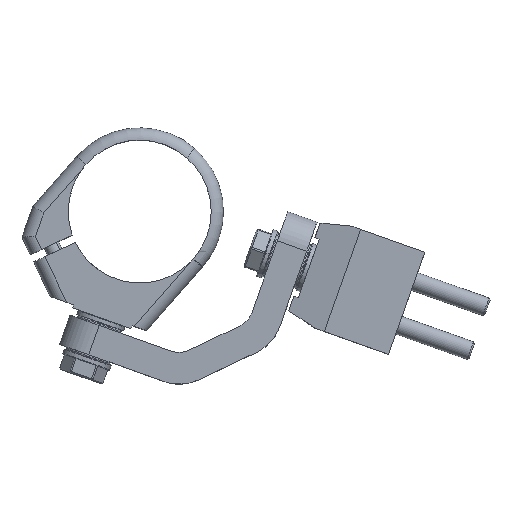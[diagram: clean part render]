
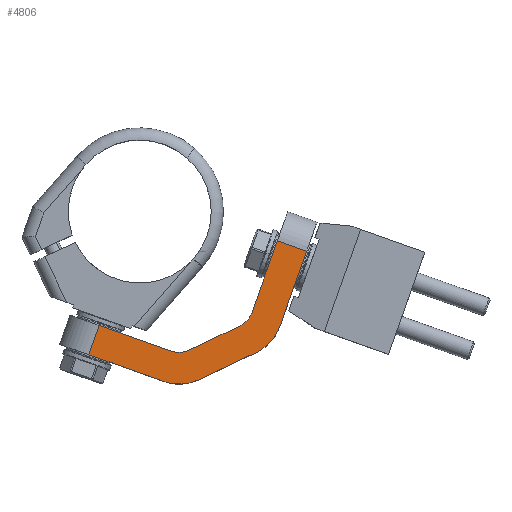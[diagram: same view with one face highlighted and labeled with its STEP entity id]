
A CAD part, top view. The second image highlights one B-rep face of the part: STEP entity #4806.
In plain terms, the highlighted planar face has unit normal (0, 0, 1).
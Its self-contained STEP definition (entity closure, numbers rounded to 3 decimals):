
#430=DIRECTION('',(-0.942,0.335,0.));
#431=VECTOR('',#430,10.);
#432=CARTESIAN_POINT('',(-325.493,2.358,458.379));
#433=LINE('',#432,#431);
#470=CARTESIAN_POINT('',(-366.552,-25.484,458.372));
#471=DIRECTION('',(0.,0.,-1.));
#472=DIRECTION('',(0.051,-0.999,0.));
#473=AXIS2_PLACEMENT_3D('',#470,#471,#472);
#475=DIRECTION('',(-0.942,0.335,0.));
#476=VECTOR('',#475,25.657);
#477=CARTESIAN_POINT('',(-371.582,-39.616,458.372));
#478=LINE('',#477,#476);
#479=DIRECTION('',(0.942,-0.335,0.));
#480=VECTOR('',#479,24.414);
#481=CARTESIAN_POINT('',(-392.399,-21.59,458.367));
#482=LINE('',#481,#480);
#483=CARTESIAN_POINT('',(-366.716,-22.241,458.372));
#484=DIRECTION('',(0.,0.,1.));
#485=DIRECTION('',(-0.335,-0.942,0.));
#486=AXIS2_PLACEMENT_3D('',#483,#484,#485);
#488=CARTESIAN_POINT('',(-366.716,-22.241,458.372));
#489=DIRECTION('',(0.,0.,1.));
#490=DIRECTION('',(0.051,-0.999,0.));
#491=AXIS2_PLACEMENT_3D('',#488,#489,#490);
#493=DIRECTION('',(0.903,0.429,0.));
#494=VECTOR('',#493,17.799);
#495=CARTESIAN_POINT('',(-363.284,-29.468,458.373));
#496=LINE('',#495,#494);
#497=CARTESIAN_POINT('',(-350.638,-14.606,458.375));
#498=DIRECTION('',(0.,0.,1.));
#499=DIRECTION('',(0.429,-0.903,0.));
#500=AXIS2_PLACEMENT_3D('',#497,#498,#499);
#502=CARTESIAN_POINT('',(-350.638,-14.606,458.375));
#503=DIRECTION('',(0.,0.,1.));
#504=DIRECTION('',(0.742,-0.67,0.));
#505=AXIS2_PLACEMENT_3D('',#502,#503,#504);
#507=DIRECTION('',(0.335,0.942,0.));
#508=VECTOR('',#507,24.414);
#509=CARTESIAN_POINT('',(-343.102,-17.289,458.377));
#510=LINE('',#509,#508);
#511=DIRECTION('',(-0.335,-0.942,0.));
#512=VECTOR('',#511,25.657);
#513=CARTESIAN_POINT('',(-325.493,2.358,458.379));
#514=LINE('',#513,#512);
#515=CARTESIAN_POINT('',(-348.229,-16.782,458.376));
#516=DIRECTION('',(0.,0.,-1.));
#517=DIRECTION('',(0.942,-0.335,0.));
#518=AXIS2_PLACEMENT_3D('',#515,#516,#517);
#520=CARTESIAN_POINT('',(-348.229,-16.782,458.376));
#521=DIRECTION('',(0.,0.,-1.));
#522=DIRECTION('',(0.742,-0.67,0.));
#523=AXIS2_PLACEMENT_3D('',#520,#521,#522);
#525=DIRECTION('',(-0.903,-0.429,0.));
#526=VECTOR('',#525,20.284);
#527=CARTESIAN_POINT('',(-341.794,-30.332,458.378));
#528=LINE('',#527,#526);
#529=CARTESIAN_POINT('',(-366.552,-25.484,458.372));
#530=DIRECTION('',(0.,0.,-1.));
#531=DIRECTION('',(0.429,-0.903,0.));
#532=AXIS2_PLACEMENT_3D('',#529,#530,#531);
#630=DIRECTION('',(-0.335,-0.942,0.));
#631=VECTOR('',#630,10.);
#632=CARTESIAN_POINT('',(-392.399,-21.59,458.367));
#633=LINE('',#632,#631);
#3386=CARTESIAN_POINT('',(-334.913,5.712,458.377));
#3388=VERTEX_POINT('',#3386);
#3389=CARTESIAN_POINT('',(-343.102,-17.289,
458.377));
#3390=VERTEX_POINT('',#3389);
#3395=CARTESIAN_POINT('',(-325.493,2.358,458.379));
#3397=VERTEX_POINT('',#3395);
#3401=CARTESIAN_POINT('',(-334.098,-21.813,
458.379));
#3403=VERTEX_POINT('',#3401);
#3409=CARTESIAN_POINT('',(-337.098,-26.838,
458.379));
#3410=VERTEX_POINT('',#3409);
#3415=CARTESIAN_POINT('',(-341.794,-30.332,
458.378));
#3416=VERTEX_POINT('',#3415);
#3417=CARTESIAN_POINT('',(-365.792,-40.465,
458.374));
#3418=CARTESIAN_POINT('',(-371.582,-39.616,
458.372));
#3419=VERTEX_POINT('',#3417);
#3420=VERTEX_POINT('',#3418);
#3421=CARTESIAN_POINT('',(-395.753,-31.011,
458.367));
#3422=VERTEX_POINT('',#3421);
#3423=CARTESIAN_POINT('',(-392.399,-21.59,
458.367));
#3424=VERTEX_POINT('',#3423);
#3425=CARTESIAN_POINT('',(-369.399,-29.778,
458.372));
#3426=VERTEX_POINT('',#3425);
#3427=CARTESIAN_POINT('',(-366.311,-30.231,
458.373));
#3428=VERTEX_POINT('',#3427);
#3429=CARTESIAN_POINT('',(-363.284,-29.468,
458.373));
#3430=VERTEX_POINT('',#3429);
#3431=CARTESIAN_POINT('',(-347.206,-21.832,
458.376));
#3432=VERTEX_POINT('',#3431);
#3433=CARTESIAN_POINT('',(-344.702,-19.969,
458.376));
#3434=VERTEX_POINT('',#3433);
#3435=CARTESIAN_POINT('',(-360.117,-39.034,
458.375));
#3436=VERTEX_POINT('',#3435);
#4772=CARTESIAN_POINT('',(-358.049,-19.747,
458.374));
#4773=DIRECTION('',(0.,0.,1.));
#4774=DIRECTION('',(-0.942,0.335,0.));
#4775=AXIS2_PLACEMENT_3D('',#4772,#4773,#4774);
#4776=PLANE('',#4775);
#4778=ORIENTED_EDGE('',*,*,#4777,.T.);
#4780=ORIENTED_EDGE('',*,*,#4779,.T.);
#4782=ORIENTED_EDGE('',*,*,#4781,.F.);
#4784=ORIENTED_EDGE('',*,*,#4783,.T.);
#4786=ORIENTED_EDGE('',*,*,#4785,.T.);
#4788=ORIENTED_EDGE('',*,*,#4787,.T.);
#4790=ORIENTED_EDGE('',*,*,#4789,.T.);
#4792=ORIENTED_EDGE('',*,*,#4791,.T.);
#4794=ORIENTED_EDGE('',*,*,#4793,.T.);
#4795=ORIENTED_EDGE('',*,*,#4697,.T.);
#4796=ORIENTED_EDGE('',*,*,#4720,.F.);
#4797=ORIENTED_EDGE('',*,*,#4738,.T.);
#4798=ORIENTED_EDGE('',*,*,#4758,.T.);
#4799=ORIENTED_EDGE('',*,*,#4767,.T.);
#4801=ORIENTED_EDGE('',*,*,#4800,.T.);
#4803=ORIENTED_EDGE('',*,*,#4802,.T.);
#4804=EDGE_LOOP('',(#4778,#4780,#4782,#4784,#4786,#4788,#4790,#4792,#4794,#4795,
#4796,#4797,#4798,#4799,#4801,#4803));
#4805=FACE_OUTER_BOUND('',#4804,.F.);
#4806=ADVANCED_FACE('',(#4805),#4776,.T.);
#474=CIRCLE('',#473,15.);
#487=CIRCLE('',#486,8.);
#492=CIRCLE('',#491,8.);
#501=CIRCLE('',#500,8.);
#506=CIRCLE('',#505,8.);
#519=CIRCLE('',#518,15.);
#524=CIRCLE('',#523,15.);
#533=CIRCLE('',#532,15.);
#4697=EDGE_CURVE('',#3390,#3388,#510,.T.);
#4720=EDGE_CURVE('',#3397,#3388,#433,.T.);
#4738=EDGE_CURVE('',#3397,#3403,#514,.T.);
#4758=EDGE_CURVE('',#3403,#3410,#519,.T.);
#4767=EDGE_CURVE('',#3410,#3416,#524,.T.);
#4777=EDGE_CURVE('',#3419,#3420,#474,.T.);
#4779=EDGE_CURVE('',#3420,#3422,#478,.T.);
#4781=EDGE_CURVE('',#3424,#3422,#633,.T.);
#4783=EDGE_CURVE('',#3424,#3426,#482,.T.);
#4785=EDGE_CURVE('',#3426,#3428,#487,.T.);
#4787=EDGE_CURVE('',#3428,#3430,#492,.T.);
#4789=EDGE_CURVE('',#3430,#3432,#496,.T.);
#4791=EDGE_CURVE('',#3432,#3434,#501,.T.);
#4793=EDGE_CURVE('',#3434,#3390,#506,.T.);
#4800=EDGE_CURVE('',#3416,#3436,#528,.T.);
#4802=EDGE_CURVE('',#3436,#3419,#533,.T.);
